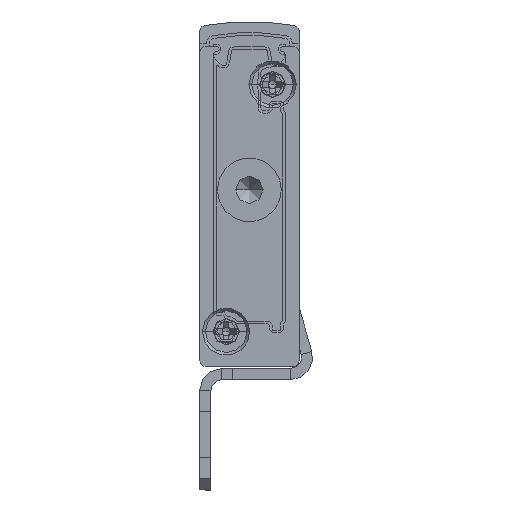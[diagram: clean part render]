
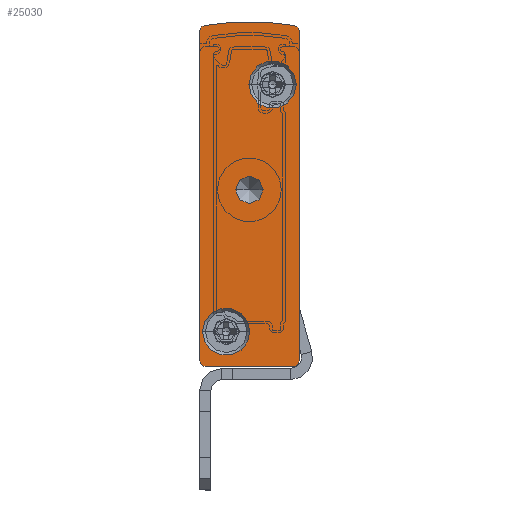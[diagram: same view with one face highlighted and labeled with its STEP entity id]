
A CAD part, front view. The second image highlights one B-rep face of the part: STEP entity #25030.
In plain terms, the highlighted planar face has unit normal (0, -1, 0).
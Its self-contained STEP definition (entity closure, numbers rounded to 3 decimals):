
#239 = CIRCLE ( 'NONE', #28103, 1.25 ) ;
#520 = DIRECTION ( 'NONE',  ( 1., 0., 0. ) ) ;
#736 = AXIS2_PLACEMENT_3D ( 'NONE', #16090, #19155, #18612 ) ;
#737 = DIRECTION ( 'NONE',  ( -1., 0., 0. ) ) ;
#1098 = LINE ( 'NONE', #6703, #32546 ) ;
#1134 = VERTEX_POINT ( 'NONE', #14436 ) ;
#1500 = CARTESIAN_POINT ( 'NONE',  ( -8.75, -2.5, 3.15 ) ) ;
#1645 = VERTEX_POINT ( 'NONE', #32763 ) ;
#2673 = VERTEX_POINT ( 'NONE', #15568 ) ;
#2676 = DIRECTION ( 'NONE',  ( 1., 0., 0. ) ) ;
#3173 = CARTESIAN_POINT ( 'NONE',  ( -0.5, -2.5, 0. ) ) ;
#3253 = EDGE_CURVE ( 'NONE', #18798, #13227, #30094, .T. ) ;
#3304 = DIRECTION ( 'NONE',  ( 0., 1., 0. ) ) ;
#3751 = FACE_BOUND ( 'NONE', #36856, .T. ) ;
#3777 = CARTESIAN_POINT ( 'NONE',  ( -8.5, -2.5, 30.402 ) ) ;
#5197 = CARTESIAN_POINT ( 'NONE',  ( 0., -2.5, 30.402 ) ) ;
#5223 = FACE_OUTER_BOUND ( 'NONE', #15429, .T. ) ;
#5393 = ORIENTED_EDGE ( 'NONE', *, *, #3253, .F. ) ;
#5552 = CARTESIAN_POINT ( 'NONE',  ( -9., -2.5, 0.5 ) ) ;
#5921 = EDGE_LOOP ( 'NONE', ( #16911, #9272 ) ) ;
#6439 = DIRECTION ( 'NONE',  ( -1., 0., 0. ) ) ;
#6703 = CARTESIAN_POINT ( 'NONE',  ( -8.5, -2.5, 0. ) ) ;
#7056 = ORIENTED_EDGE ( 'NONE', *, *, #31051, .F. ) ;
#7321 = EDGE_CURVE ( 'NONE', #12133, #38315, #16514, .T. ) ;
#7342 = DIRECTION ( 'NONE',  ( -1., 0., 0. ) ) ;
#7533 = AXIS2_PLACEMENT_3D ( 'NONE', #15777, #21738, #36635 ) ;
#8042 = DIRECTION ( 'NONE',  ( -1., 0., 0. ) ) ;
#8105 = CIRCLE ( 'NONE', #7533, 0.5 ) ;
#8345 = DIRECTION ( 'NONE',  ( -1., 0., 0. ) ) ;
#9272 = ORIENTED_EDGE ( 'NONE', *, *, #19187, .T. ) ;
#9318 = ORIENTED_EDGE ( 'NONE', *, *, #14428, .F. ) ;
#9505 = CARTESIAN_POINT ( 'NONE',  ( -6.6, -2.5, 3.15 ) ) ;
#10057 = ORIENTED_EDGE ( 'NONE', *, *, #25499, .F. ) ;
#11499 = EDGE_CURVE ( 'NONE', #2673, #1134, #239, .T. ) ;
#12101 = CARTESIAN_POINT ( 'NONE',  ( -0.25, -2.5, 25.55 ) ) ;
#12133 = VERTEX_POINT ( 'NONE', #1500 ) ;
#12509 = DIRECTION ( 'NONE',  ( 1., 0., 0. ) ) ;
#13146 = CARTESIAN_POINT ( 'NONE',  ( -4.5, -2.5, 16. ) ) ;
#13227 = VERTEX_POINT ( 'NONE', #25915 ) ;
#13992 = ORIENTED_EDGE ( 'NONE', *, *, #32006, .F. ) ;
#14428 = EDGE_CURVE ( 'NONE', #26027, #37478, #34493, .T. ) ;
#14436 = CARTESIAN_POINT ( 'NONE',  ( -3.25, -2.5, 16. ) ) ;
#14648 = CIRCLE ( 'NONE', #17351, 1.25 ) ;
#15353 = ORIENTED_EDGE ( 'NONE', *, *, #38869, .F. ) ;
#15429 = EDGE_LOOP ( 'NONE', ( #15353, #10057, #9318, #19683, #36388, #18040, #7056, #5393 ) ) ;
#15463 = CARTESIAN_POINT ( 'NONE',  ( -2.4, -2.5, 25.55 ) ) ;
#15568 = CARTESIAN_POINT ( 'NONE',  ( -5.75, -2.5, 16. ) ) ;
#15777 = CARTESIAN_POINT ( 'NONE',  ( -0.5, -2.5, 0.5 ) ) ;
#16090 = CARTESIAN_POINT ( 'NONE',  ( -8.5, -2.5, 0.5 ) ) ;
#16454 = CIRCLE ( 'NONE', #34075, 2.15 ) ;
#16455 = AXIS2_PLACEMENT_3D ( 'NONE', #17370, #23838, #8345 ) ;
#16514 = CIRCLE ( 'NONE', #19818, 2.15 ) ;
#16638 = AXIS2_PLACEMENT_3D ( 'NONE', #33700, #18563, #520 ) ;
#16656 = LINE ( 'NONE', #25908, #25632 ) ;
#16768 = CARTESIAN_POINT ( 'NONE',  ( -8.592, -2.5, 30.893 ) ) ;
#16770 = CIRCLE ( 'NONE', #16638, 2.15 ) ;
#16911 = ORIENTED_EDGE ( 'NONE', *, *, #11499, .T. ) ;
#17191 = AXIS2_PLACEMENT_3D ( 'NONE', #3777, #31217, #37295 ) ;
#17294 = DIRECTION ( 'NONE',  ( 0., 0., -1. ) ) ;
#17340 = EDGE_CURVE ( 'NONE', #38315, #12133, #16454, .T. ) ;
#17351 = AXIS2_PLACEMENT_3D ( 'NONE', #35672, #26193, #8042 ) ;
#17370 = CARTESIAN_POINT ( 'NONE',  ( -0.5, -2.5, 30.402 ) ) ;
#18027 = CARTESIAN_POINT ( 'NONE',  ( -6.6, -2.5, 3.15 ) ) ;
#18040 = ORIENTED_EDGE ( 'NONE', *, *, #23290, .F. ) ;
#18062 = FACE_BOUND ( 'NONE', #39467, .T. ) ;
#18307 = DIRECTION ( 'NONE',  ( 1., 0., 0. ) ) ;
#18543 = DIRECTION ( 'NONE',  ( 0., -1., 0. ) ) ;
#18563 = DIRECTION ( 'NONE',  ( 0., -1., 0. ) ) ;
#18612 = DIRECTION ( 'NONE',  ( -1., 0., 0. ) ) ;
#18798 = VERTEX_POINT ( 'NONE', #16768 ) ;
#19155 = DIRECTION ( 'NONE',  ( 0., 1., 0. ) ) ;
#19187 = EDGE_CURVE ( 'NONE', #1134, #2673, #14648, .T. ) ;
#19227 = CIRCLE ( 'NONE', #30454, 2.15 ) ;
#19683 = ORIENTED_EDGE ( 'NONE', *, *, #20265, .F. ) ;
#19730 = DIRECTION ( 'NONE',  ( 0., 0., 1. ) ) ;
#19818 = AXIS2_PLACEMENT_3D ( 'NONE', #9505, #37026, #18307 ) ;
#20265 = EDGE_CURVE ( 'NONE', #38139, #26027, #1098, .T. ) ;
#20769 = AXIS2_PLACEMENT_3D ( 'NONE', #33402, #3304, #6439 ) ;
#21738 = DIRECTION ( 'NONE',  ( 0., 1., 0. ) ) ;
#22300 = DIRECTION ( 'NONE',  ( 0., 1., 0. ) ) ;
#23290 = EDGE_CURVE ( 'NONE', #1645, #36795, #27703, .T. ) ;
#23838 = DIRECTION ( 'NONE',  ( 0., 1., 0. ) ) ;
#24506 = VERTEX_POINT ( 'NONE', #32727 ) ;
#25030 = ADVANCED_FACE ( 'NONE', ( #18062, #3751, #5223, #29489 ), #37438, .F. ) ;
#25499 = EDGE_CURVE ( 'NONE', #37478, #24506, #16656, .T. ) ;
#25632 = VECTOR ( 'NONE', #19730, 1000. ) ;
#25908 = CARTESIAN_POINT ( 'NONE',  ( -9., -2.5, 30.402 ) ) ;
#25915 = CARTESIAN_POINT ( 'NONE',  ( -0.408, -2.5, 30.893 ) ) ;
#26027 = VERTEX_POINT ( 'NONE', #39034 ) ;
#26193 = DIRECTION ( 'NONE',  ( 0., 1., 0. ) ) ;
#26761 = VECTOR ( 'NONE', #17294, 1000. ) ;
#27703 = LINE ( 'NONE', #5197, #26761 ) ;
#28103 = AXIS2_PLACEMENT_3D ( 'NONE', #13146, #37211, #737 ) ;
#28136 = ORIENTED_EDGE ( 'NONE', *, *, #17340, .F. ) ;
#29489 = FACE_BOUND ( 'NONE', #5921, .T. ) ;
#30094 = CIRCLE ( 'NONE', #32377, 23.658 ) ;
#30298 = EDGE_CURVE ( 'NONE', #36795, #38139, #8105, .T. ) ;
#30454 = AXIS2_PLACEMENT_3D ( 'NONE', #15463, #18543, #12509 ) ;
#31051 = EDGE_CURVE ( 'NONE', #13227, #1645, #37049, .T. ) ;
#31217 = DIRECTION ( 'NONE',  ( 0., 1., 0. ) ) ;
#32006 = EDGE_CURVE ( 'NONE', #35068, #33185, #16770, .T. ) ;
#32037 = CIRCLE ( 'NONE', #20769, 0.5 ) ;
#32281 = ORIENTED_EDGE ( 'NONE', *, *, #7321, .F. ) ;
#32377 = AXIS2_PLACEMENT_3D ( 'NONE', #37734, #22300, #34687 ) ;
#32546 = VECTOR ( 'NONE', #7342, 1000. ) ;
#32727 = CARTESIAN_POINT ( 'NONE',  ( -9., -2.5, 30.402 ) ) ;
#32763 = CARTESIAN_POINT ( 'NONE',  ( 0., -2.5, 30.402 ) ) ;
#32764 = ORIENTED_EDGE ( 'NONE', *, *, #38892, .F. ) ;
#33185 = VERTEX_POINT ( 'NONE', #12101 ) ;
#33402 = CARTESIAN_POINT ( 'NONE',  ( -8.5, -2.5, 30.402 ) ) ;
#33503 = CARTESIAN_POINT ( 'NONE',  ( -4.55, -2.5, 25.55 ) ) ;
#33700 = CARTESIAN_POINT ( 'NONE',  ( -2.4, -2.5, 25.55 ) ) ;
#33777 = CARTESIAN_POINT ( 'NONE',  ( 0., -2.5, 0.5 ) ) ;
#34075 = AXIS2_PLACEMENT_3D ( 'NONE', #18027, #39007, #2676 ) ;
#34493 = CIRCLE ( 'NONE', #736, 0.5 ) ;
#34687 = DIRECTION ( 'NONE',  ( -1., 0., 0. ) ) ;
#35068 = VERTEX_POINT ( 'NONE', #33503 ) ;
#35234 = CARTESIAN_POINT ( 'NONE',  ( -4.45, -2.5, 3.15 ) ) ;
#35672 = CARTESIAN_POINT ( 'NONE',  ( -4.5, -2.5, 16. ) ) ;
#36388 = ORIENTED_EDGE ( 'NONE', *, *, #30298, .F. ) ;
#36635 = DIRECTION ( 'NONE',  ( -1., 0., 0. ) ) ;
#36795 = VERTEX_POINT ( 'NONE', #33777 ) ;
#36856 = EDGE_LOOP ( 'NONE', ( #28136, #32281 ) ) ;
#37026 = DIRECTION ( 'NONE',  ( 0., -1., 0. ) ) ;
#37049 = CIRCLE ( 'NONE', #16455, 0.5 ) ;
#37211 = DIRECTION ( 'NONE',  ( 0., 1., 0. ) ) ;
#37295 = DIRECTION ( 'NONE',  ( -1., 0., 0. ) ) ;
#37438 = PLANE ( 'NONE',  #17191 ) ;
#37478 = VERTEX_POINT ( 'NONE', #5552 ) ;
#37734 = CARTESIAN_POINT ( 'NONE',  ( -4.5, -2.5, 7.592 ) ) ;
#38139 = VERTEX_POINT ( 'NONE', #3173 ) ;
#38315 = VERTEX_POINT ( 'NONE', #35234 ) ;
#38869 = EDGE_CURVE ( 'NONE', #24506, #18798, #32037, .T. ) ;
#38892 = EDGE_CURVE ( 'NONE', #33185, #35068, #19227, .T. ) ;
#39007 = DIRECTION ( 'NONE',  ( 0., -1., 0. ) ) ;
#39034 = CARTESIAN_POINT ( 'NONE',  ( -8.5, -2.5, 0. ) ) ;
#39467 = EDGE_LOOP ( 'NONE', ( #32764, #13992 ) ) ;
